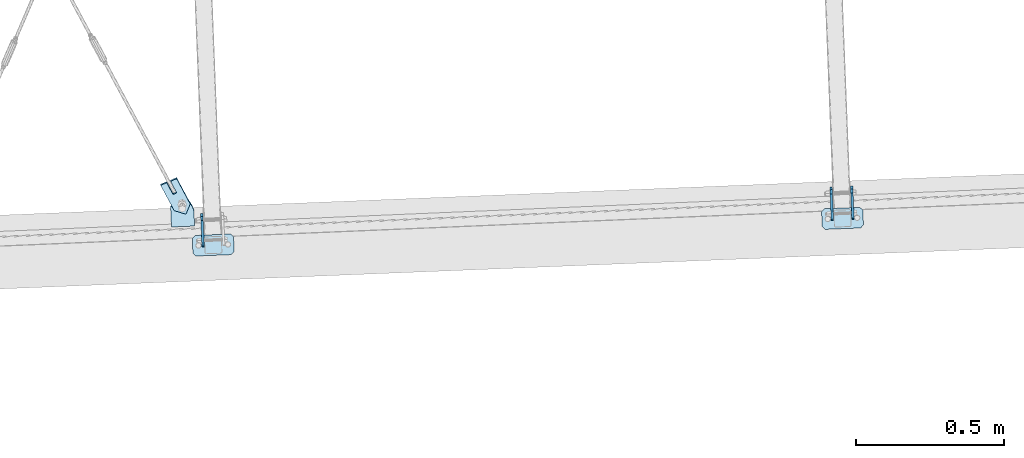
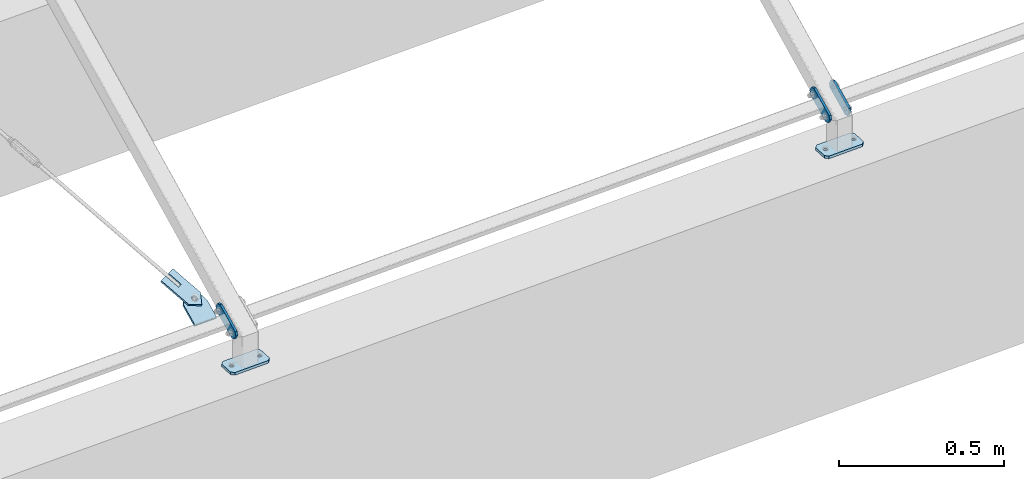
# One storey, part 61 of 288: 7 plates, 42 openings.
"""IFC2X3 building model written with IfcOpenShell, lengths in millimetres."""

from ifc_helpers import new_model, entity, si_unit, converted_unit, point, frame, frame_2d, origin, origin_with_axes, origin_2d_with_axis, place, context, project, spatial, polyline, circle_curve, line_curve, trimmed, segment, composite_curve, circle, outline, extrude, material, layer, layer_set, element, save


model = new_model("IFC2X3")

# Units and contexts
model_context = context("Model", 3, precision=1e-09, world=origin_with_axes())
ifc_project = project(units=[si_unit("LENGTHUNIT", "METRE", prefix="MILLI"), si_unit("AREAUNIT", "SQUARE_METRE"), si_unit("VOLUMEUNIT", "CUBIC_METRE"), converted_unit("PLANEANGLEUNIT", "DEGREE", entity("IfcPlaneAngleMeasure", 0.01745329), si_unit("PLANEANGLEUNIT", "RADIAN"), dimensions=[0, 0, 0, 0, 0, 0, 0])], contexts=[model_context])

# Site, building, storey
site_placement = place(None, origin_with_axes())
site = spatial("IfcSite", under=ifc_project, at=site_placement, Name="Remont ?wietlik?w nad MC w NCPP w Opolu", CompositionType="ELEMENT")
building_placement = place(site_placement, origin_with_axes())
building = spatial("IfcBuilding", under=site, at=building_placement, Name="Konstrukcja 1", CompositionType="ELEMENT")
storey_placement = place(building_placement, origin_with_axes())
storey = spatial("IfcBuildingStorey", under=building, at=storey_placement, Name="Default Storey", CompositionType="ELEMENT", Elevation=0.0)

# Plate, openings
ifc_material = material(Name="S235")
ifc_layer_1 = layer(ifc_material, 8.0)
ifc_layer_set_1 = layer_set([ifc_layer_1], Name="S235")
plate_1_placement = place(None, frame((5642.955273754, 13767.245225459, 92.398496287), z_axis=(-0.999102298, -0.042361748, 0.000284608), x_axis=(0.021561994, -0.502733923, 0.864172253)))
plate_1 = element("IfcPlate", 1, at=plate_1_placement, inside=storey, material=ifc_layer_set_1, Name="-", ObjectType="-", context=model_context, shape_type="SweptSolid", body=[
    extrude(outline(polyline([(0.0, 0.0), (40.0, 0.0), (40.0, 120.0), (0.0, 120.0), (0.0, 0.0)])), origin_with_axes(), (0.0, 0.0, 1.0), 8.0),
])
opening_1_placement = place(plate_1_placement, frame((0.0, 0.0, -0.01), z_axis=(0.0, 0.0, 1.0), x_axis=(1.0, 0.0, 0.0)))
element("IfcOpeningElement", 2, at=opening_1_placement, cuts=plate_1, ObjectType="Opening", context=model_context, shape_type="SweptSolid", body=[
    extrude(outline(composite_curve([segment(trimmed(line_curve((0.0, 0.0), (1.0, 0.0), 10.0), [point((0.0, 0.0))], [point((10.0, 0.0))], True, "CARTESIAN"), True, "CONTINUOUS"), segment(trimmed(circle_curve(frame_2d((10.0, 10.0), x_axis=(-1.0, 0.0)), 10.0), [point((10.0, 0.0))], [point((0.0, 10.0))], False, "CARTESIAN"), True, "CONTINUOUS"), segment(trimmed(line_curve((0.0, 10.0), (0.0, -1.0), 10.0), [point((0.0, 10.0))], [point((0.0, 0.0))], True, "CARTESIAN"), True, "CONTINUOUS")], self_intersect=False)), origin(), (0.0, 0.0, 1.0), 8.02),
])
opening_2_placement = place(plate_1_placement, frame((0.0, 0.0, -0.01), z_axis=(0.0, 0.0, 1.0), x_axis=(1.0, 0.0, 0.0)))
element("IfcOpeningElement", 3, at=opening_2_placement, cuts=plate_1, ObjectType="Opening", context=model_context, shape_type="SweptSolid", body=[
    extrude(outline(composite_curve([segment(trimmed(line_curve((40.0, 0.0), (0.0, 1.0), 10.0), [point((40.0, 0.0))], [point((40.0, 10.0))], True, "CARTESIAN"), True, "CONTINUOUS"), segment(trimmed(circle_curve(frame_2d((30.0, 10.0), x_axis=(-1.0, 0.0)), 10.0), [point((40.0, 10.0))], [point((30.0, 0.0))], False, "CARTESIAN"), True, "CONTINUOUS"), segment(trimmed(line_curve((30.0, 0.0), (1.0, 0.0), 10.0), [point((30.0, 0.0))], [point((40.0, 0.0))], True, "CARTESIAN"), True, "CONTINUOUS")], self_intersect=False)), origin(), (0.0, 0.0, 1.0), 8.02),
])
opening_3_placement = place(plate_1_placement, frame((0.0, 0.0, -0.01), z_axis=(0.0, 0.0, 1.0), x_axis=(1.0, 0.0, 0.0)))
element("IfcOpeningElement", 4, at=opening_3_placement, cuts=plate_1, ObjectType="Opening", context=model_context, shape_type="SweptSolid", body=[
    extrude(outline(composite_curve([segment(trimmed(line_curve((40.0, 120.0), (-1.0, 0.0), 10.0), [point((40.0, 120.0))], [point((30.0, 120.0))], True, "CARTESIAN"), True, "CONTINUOUS"), segment(trimmed(circle_curve(frame_2d((30.0, 110.0), x_axis=(-1.0, 0.0)), 10.0), [point((30.0, 120.0))], [point((40.0, 110.0))], False, "CARTESIAN"), True, "CONTINUOUS"), segment(trimmed(line_curve((40.0, 110.0), (0.0, 1.0), 10.0), [point((40.0, 110.0))], [point((40.0, 120.0))], True, "CARTESIAN"), True, "CONTINUOUS")], self_intersect=False)), origin(), (0.0, 0.0, 1.0), 8.02),
])
opening_4_placement = place(plate_1_placement, frame((0.0, 0.0, -0.01), z_axis=(0.0, 0.0, 1.0), x_axis=(1.0, 0.0, 0.0)))
element("IfcOpeningElement", 5, at=opening_4_placement, cuts=plate_1, ObjectType="Opening", context=model_context, shape_type="SweptSolid", body=[
    extrude(outline(composite_curve([segment(trimmed(line_curve((0.0, 120.0), (0.0, -1.0), 10.0), [point((0.0, 120.0))], [point((0.0, 110.0))], True, "CARTESIAN"), True, "CONTINUOUS"), segment(trimmed(circle_curve(frame_2d((10.0, 110.0), x_axis=(-1.0, 0.0)), 10.0), [point((0.0, 110.0))], [point((10.0, 120.0))], False, "CARTESIAN"), True, "CONTINUOUS"), segment(trimmed(line_curve((10.0, 120.0), (-1.0, 0.0), 10.0), [point((10.0, 120.0))], [point((0.0, 120.0))], True, "CARTESIAN"), True, "CONTINUOUS")], self_intersect=False)), origin(), (0.0, 0.0, 1.0), 8.02),
])
opening_5_placement = place(plate_1_placement, frame((12.999, 100.0, 8.5), z_axis=(0.0, 0.0, 1.0), x_axis=(1.0, 0.0, 0.0)))
element("IfcOpeningElement", 6, at=opening_5_placement, cuts=plate_1, ObjectType="Opening", context=model_context, shape_type="SweptSolid", body=[
    extrude(circle(Radius=7.001, at=frame_2d((7.001, 0.0), x_axis=(1.0, 0.0))), origin(), (0.0, 0.0, -1.0), 9.0),
])
opening_6_placement = place(plate_1_placement, frame((12.999, 20.0, 8.5), z_axis=(0.0, 0.0, 1.0), x_axis=(1.0, 0.0, 0.0)))
element("IfcOpeningElement", 7, at=opening_6_placement, cuts=plate_1, ObjectType="Opening", context=model_context, shape_type="SweptSolid", body=[
    extrude(circle(Radius=7.001, at=frame_2d((7.001, 0.0), x_axis=(1.0, 0.0))), origin(), (0.0, 0.0, -1.0), 9.0),
])

plate_2_placement = place(None, frame((5573.018112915, 13764.279903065, 92.418418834), z_axis=(-0.999102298, -0.042361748, 0.000284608), x_axis=(0.021561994, -0.502733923, 0.864172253)))
plate_2 = element("IfcPlate", 8, at=plate_2_placement, inside=storey, material=ifc_layer_set_1, Name="-", ObjectType="-", context=model_context, shape_type="SweptSolid", body=[
    extrude(outline(polyline([(0.0, 0.0), (40.0, 0.0), (40.0, 120.0), (0.0, 120.0), (0.0, 0.0)])), origin_with_axes(), (0.0, 0.0, 1.0), 8.0),
])
opening_7_placement = place(plate_2_placement, frame((12.999, 100.0, 8.5), z_axis=(0.0, 0.0, 1.0), x_axis=(1.0, 0.0, 0.0)))
element("IfcOpeningElement", 9, at=opening_7_placement, cuts=plate_2, ObjectType="Opening", context=model_context, shape_type="SweptSolid", body=[
    extrude(circle(Radius=7.001, at=frame_2d((7.001, 0.0), x_axis=(1.0, 0.0))), origin(), (0.0, 0.0, -1.0), 9.0),
])
opening_8_placement = place(plate_2_placement, frame((12.999, 20.0, 8.5), z_axis=(0.0, 0.0, 1.0), x_axis=(1.0, 0.0, 0.0)))
element("IfcOpeningElement", 10, at=opening_8_placement, cuts=plate_2, ObjectType="Opening", context=model_context, shape_type="SweptSolid", body=[
    extrude(circle(Radius=7.001, at=frame_2d((7.001, 0.0), x_axis=(1.0, 0.0))), origin(), (0.0, 0.0, -1.0), 9.0),
])
opening_9_placement = place(plate_2_placement, frame((0.0, 0.0, -0.01), z_axis=(0.0, 0.0, 1.0), x_axis=(1.0, 0.0, 0.0)))
element("IfcOpeningElement", 11, at=opening_9_placement, cuts=plate_2, ObjectType="Opening", context=model_context, shape_type="SweptSolid", body=[
    extrude(outline(composite_curve([segment(trimmed(line_curve((40.0, 0.0), (0.0, 1.0), 10.0), [point((40.0, 0.0))], [point((40.0, 10.0))], True, "CARTESIAN"), True, "CONTINUOUS"), segment(trimmed(circle_curve(frame_2d((30.0, 10.0), x_axis=(-1.0, 0.0)), 10.0), [point((40.0, 10.0))], [point((30.0, 0.0))], False, "CARTESIAN"), True, "CONTINUOUS"), segment(trimmed(line_curve((30.0, 0.0), (1.0, 0.0), 10.0), [point((30.0, 0.0))], [point((40.0, 0.0))], True, "CARTESIAN"), True, "CONTINUOUS")], self_intersect=False)), origin(), (0.0, 0.0, 1.0), 8.02),
])
opening_10_placement = place(plate_2_placement, frame((0.0, 0.0, -0.01), z_axis=(0.0, 0.0, 1.0), x_axis=(1.0, 0.0, 0.0)))
element("IfcOpeningElement", 12, at=opening_10_placement, cuts=plate_2, ObjectType="Opening", context=model_context, shape_type="SweptSolid", body=[
    extrude(outline(composite_curve([segment(trimmed(line_curve((0.0, 0.0), (1.0, 0.0), 10.0), [point((0.0, 0.0))], [point((10.0, 0.0))], True, "CARTESIAN"), True, "CONTINUOUS"), segment(trimmed(circle_curve(frame_2d((10.0, 10.0), x_axis=(-1.0, 0.0)), 10.0), [point((10.0, 0.0))], [point((0.0, 10.0))], False, "CARTESIAN"), True, "CONTINUOUS"), segment(trimmed(line_curve((0.0, 10.0), (0.0, -1.0), 10.0), [point((0.0, 10.0))], [point((0.0, 0.0))], True, "CARTESIAN"), True, "CONTINUOUS")], self_intersect=False)), origin(), (0.0, 0.0, 1.0), 8.02),
])
opening_11_placement = place(plate_2_placement, frame((0.0, 0.0, -0.01), z_axis=(0.0, 0.0, 1.0), x_axis=(1.0, 0.0, 0.0)))
element("IfcOpeningElement", 13, at=opening_11_placement, cuts=plate_2, ObjectType="Opening", context=model_context, shape_type="SweptSolid", body=[
    extrude(outline(composite_curve([segment(trimmed(line_curve((40.0, 120.0), (-1.0, 0.0), 10.0), [point((40.0, 120.0))], [point((30.0, 120.0))], True, "CARTESIAN"), True, "CONTINUOUS"), segment(trimmed(circle_curve(frame_2d((30.0, 110.0), x_axis=(-1.0, 0.0)), 10.0), [point((30.0, 120.0))], [point((40.0, 110.0))], False, "CARTESIAN"), True, "CONTINUOUS"), segment(trimmed(line_curve((40.0, 110.0), (0.0, 1.0), 10.0), [point((40.0, 110.0))], [point((40.0, 120.0))], True, "CARTESIAN"), True, "CONTINUOUS")], self_intersect=False)), origin(), (0.0, 0.0, 1.0), 8.02),
])
opening_12_placement = place(plate_2_placement, frame((0.0, 0.0, -0.01), z_axis=(0.0, 0.0, 1.0), x_axis=(1.0, 0.0, 0.0)))
element("IfcOpeningElement", 14, at=opening_12_placement, cuts=plate_2, ObjectType="Opening", context=model_context, shape_type="SweptSolid", body=[
    extrude(outline(composite_curve([segment(trimmed(line_curve((0.0, 120.0), (0.0, -1.0), 10.0), [point((0.0, 120.0))], [point((0.0, 110.0))], True, "CARTESIAN"), True, "CONTINUOUS"), segment(trimmed(circle_curve(frame_2d((10.0, 110.0), x_axis=(-1.0, 0.0)), 10.0), [point((0.0, 110.0))], [point((10.0, 120.0))], False, "CARTESIAN"), True, "CONTINUOUS"), segment(trimmed(line_curve((10.0, 120.0), (-1.0, 0.0), 10.0), [point((10.0, 120.0))], [point((0.0, 120.0))], True, "CARTESIAN"), True, "CONTINUOUS")], self_intersect=False)), origin(), (0.0, 0.0, 1.0), 8.02),
])
opening_13_placement = place(plate_2_placement, frame((12.999, 100.0, 8.5), z_axis=(0.0, 0.0, 1.0), x_axis=(1.0, 0.0, 0.0)))
element("IfcOpeningElement", 15, at=opening_13_placement, cuts=plate_2, ObjectType="Opening", context=model_context, shape_type="SweptSolid", body=[
    extrude(circle(Radius=7.001, at=frame_2d((7.001, 0.0), x_axis=(1.0, 0.0))), origin(), (0.0, 0.0, -1.0), 9.0),
])
opening_14_placement = place(plate_2_placement, frame((12.999, 20.0, 8.5), z_axis=(0.0, 0.0, 1.0), x_axis=(1.0, 0.0, 0.0)))
element("IfcOpeningElement", 16, at=opening_14_placement, cuts=plate_2, ObjectType="Opening", context=model_context, shape_type="SweptSolid", body=[
    extrude(circle(Radius=7.001, at=frame_2d((7.001, 0.0), x_axis=(1.0, 0.0))), origin(), (0.0, 0.0, -1.0), 9.0),
])

plate_3_placement = place(None, frame((3439.985630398, 13673.839729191, 93.026041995), z_axis=(-0.999102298, -0.042361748, 0.000284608), x_axis=(0.021561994, -0.502733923, 0.864172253)))
plate_3 = element("IfcPlate", 17, at=plate_3_placement, inside=storey, material=ifc_layer_set_1, Name="-", ObjectType="-", context=model_context, shape_type="SweptSolid", body=[
    extrude(outline(polyline([(0.0, 0.0), (40.0, 0.0), (40.0, 120.0), (0.0, 120.0), (0.0, 0.0)])), origin_with_axes(), (0.0, 0.0, 1.0), 8.0),
])
opening_15_placement = place(plate_3_placement, frame((12.999, 100.0, 8.5), z_axis=(0.0, 0.0, 1.0), x_axis=(1.0, 0.0, 0.0)))
element("IfcOpeningElement", 18, at=opening_15_placement, cuts=plate_3, ObjectType="Opening", context=model_context, shape_type="SweptSolid", body=[
    extrude(circle(Radius=7.001, at=frame_2d((7.001, 0.0), x_axis=(1.0, 0.0))), origin(), (0.0, 0.0, -1.0), 9.0),
])
opening_16_placement = place(plate_3_placement, frame((12.999, 20.0, 8.5), z_axis=(0.0, 0.0, 1.0), x_axis=(1.0, 0.0, 0.0)))
element("IfcOpeningElement", 19, at=opening_16_placement, cuts=plate_3, ObjectType="Opening", context=model_context, shape_type="SweptSolid", body=[
    extrude(circle(Radius=7.001, at=frame_2d((7.001, 0.0), x_axis=(1.0, 0.0))), origin(), (0.0, 0.0, -1.0), 9.0),
])
opening_17_placement = place(plate_3_placement, frame((0.0, 0.0, -0.01), z_axis=(0.0, 0.0, 1.0), x_axis=(1.0, 0.0, 0.0)))
element("IfcOpeningElement", 20, at=opening_17_placement, cuts=plate_3, ObjectType="Opening", context=model_context, shape_type="SweptSolid", body=[
    extrude(outline(composite_curve([segment(trimmed(line_curve((40.0, 0.0), (0.0, 1.0), 10.0), [point((40.0, 0.0))], [point((40.0, 10.0))], True, "CARTESIAN"), True, "CONTINUOUS"), segment(trimmed(circle_curve(frame_2d((30.0, 10.0), x_axis=(-1.0, 0.0)), 10.0), [point((40.0, 10.0))], [point((30.0, 0.0))], False, "CARTESIAN"), True, "CONTINUOUS"), segment(trimmed(line_curve((30.0, 0.0), (1.0, 0.0), 10.0), [point((30.0, 0.0))], [point((40.0, 0.0))], True, "CARTESIAN"), True, "CONTINUOUS")], self_intersect=False)), origin(), (0.0, 0.0, 1.0), 8.02),
])
opening_18_placement = place(plate_3_placement, frame((0.0, 0.0, -0.01), z_axis=(0.0, 0.0, 1.0), x_axis=(1.0, 0.0, 0.0)))
element("IfcOpeningElement", 21, at=opening_18_placement, cuts=plate_3, ObjectType="Opening", context=model_context, shape_type="SweptSolid", body=[
    extrude(outline(composite_curve([segment(trimmed(line_curve((0.0, 0.0), (1.0, 0.0), 10.0), [point((0.0, 0.0))], [point((10.0, 0.0))], True, "CARTESIAN"), True, "CONTINUOUS"), segment(trimmed(circle_curve(frame_2d((10.0, 10.0), x_axis=(-1.0, 0.0)), 10.0), [point((10.0, 0.0))], [point((0.0, 10.0))], False, "CARTESIAN"), True, "CONTINUOUS"), segment(trimmed(line_curve((0.0, 10.0), (0.0, -1.0), 10.0), [point((0.0, 10.0))], [point((0.0, 0.0))], True, "CARTESIAN"), True, "CONTINUOUS")], self_intersect=False)), origin(), (0.0, 0.0, 1.0), 8.02),
])
opening_19_placement = place(plate_3_placement, frame((0.0, 0.0, -0.01), z_axis=(0.0, 0.0, 1.0), x_axis=(1.0, 0.0, 0.0)))
element("IfcOpeningElement", 22, at=opening_19_placement, cuts=plate_3, ObjectType="Opening", context=model_context, shape_type="SweptSolid", body=[
    extrude(outline(composite_curve([segment(trimmed(line_curve((40.0, 120.0), (-1.0, 0.0), 10.0), [point((40.0, 120.0))], [point((30.0, 120.0))], True, "CARTESIAN"), True, "CONTINUOUS"), segment(trimmed(circle_curve(frame_2d((30.0, 110.0), x_axis=(-1.0, 0.0)), 10.0), [point((30.0, 120.0))], [point((40.0, 110.0))], False, "CARTESIAN"), True, "CONTINUOUS"), segment(trimmed(line_curve((40.0, 110.0), (0.0, 1.0), 10.0), [point((40.0, 110.0))], [point((40.0, 120.0))], True, "CARTESIAN"), True, "CONTINUOUS")], self_intersect=False)), origin(), (0.0, 0.0, 1.0), 8.02),
])
opening_20_placement = place(plate_3_placement, frame((0.0, 0.0, -0.01), z_axis=(0.0, 0.0, 1.0), x_axis=(1.0, 0.0, 0.0)))
element("IfcOpeningElement", 23, at=opening_20_placement, cuts=plate_3, ObjectType="Opening", context=model_context, shape_type="SweptSolid", body=[
    extrude(outline(composite_curve([segment(trimmed(line_curve((0.0, 120.0), (0.0, -1.0), 10.0), [point((0.0, 120.0))], [point((0.0, 110.0))], True, "CARTESIAN"), True, "CONTINUOUS"), segment(trimmed(circle_curve(frame_2d((10.0, 110.0), x_axis=(-1.0, 0.0)), 10.0), [point((0.0, 110.0))], [point((10.0, 120.0))], False, "CARTESIAN"), True, "CONTINUOUS"), segment(trimmed(line_curve((10.0, 120.0), (-1.0, 0.0), 10.0), [point((10.0, 120.0))], [point((0.0, 120.0))], True, "CARTESIAN"), True, "CONTINUOUS")], self_intersect=False)), origin(), (0.0, 0.0, 1.0), 8.02),
])
opening_21_placement = place(plate_3_placement, frame((12.999, 100.0, 8.5), z_axis=(0.0, 0.0, 1.0), x_axis=(1.0, 0.0, 0.0)))
element("IfcOpeningElement", 24, at=opening_21_placement, cuts=plate_3, ObjectType="Opening", context=model_context, shape_type="SweptSolid", body=[
    extrude(circle(Radius=7.001, at=frame_2d((7.001, 0.0), x_axis=(1.0, 0.0))), origin(), (0.0, 0.0, -1.0), 9.0),
])
opening_22_placement = place(plate_3_placement, frame((12.999, 20.0, 8.5), z_axis=(0.0, 0.0, 1.0), x_axis=(1.0, 0.0, 0.0)))
element("IfcOpeningElement", 25, at=opening_22_placement, cuts=plate_3, ObjectType="Opening", context=model_context, shape_type="SweptSolid", body=[
    extrude(circle(Radius=7.001, at=frame_2d((7.001, 0.0), x_axis=(1.0, 0.0))), origin(), (0.0, 0.0, -1.0), 9.0),
])

ifc_layer_2 = layer(ifc_material, 10.0)
ifc_layer_set_2 = layer_set([ifc_layer_2], Name="S235")
plate_4_placement = place(None, frame((3539.450567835, 13702.954333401, 10.000000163), z_axis=(0.0, 0.0, -1.0), x_axis=(0.039392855, -0.9992238, 0.0)))
plate_4 = element("IfcPlate", 26, at=plate_4_placement, inside=storey, material=ifc_layer_set_2, Name="Baseplate", ObjectType="Baseplate", context=model_context, shape_type="SweptSolid", body=[
    extrude(outline(polyline([(0.0, 0.0), (70.0, 0.0), (70.0, 140.0), (0.0, 140.0), (0.0, 0.0)])), origin_with_axes(), (0.0, 0.0, 1.0), 10.0),
])
opening_23_placement = place(plate_4_placement, frame((0.0, 0.0, -0.01), z_axis=(0.0, 0.0, 1.0), x_axis=(1.0, 0.0, 0.0)))
element("IfcOpeningElement", 27, at=opening_23_placement, cuts=plate_4, ObjectType="Opening", context=model_context, shape_type="SweptSolid", body=[
    extrude(outline(composite_curve([segment(trimmed(line_curve((0.0, 140.0), (0.0, -1.0), 10.0), [point((0.0, 140.0))], [point((0.0, 130.0))], True, "CARTESIAN"), True, "CONTINUOUS"), segment(trimmed(circle_curve(frame_2d((10.0, 130.0), x_axis=(-1.0, 0.0)), 10.0), [point((0.0, 130.0))], [point((10.0, 140.0))], False, "CARTESIAN"), True, "CONTINUOUS"), segment(trimmed(line_curve((10.0, 140.0), (-1.0, 0.0), 10.0), [point((10.0, 140.0))], [point((0.0, 140.0))], True, "CARTESIAN"), True, "CONTINUOUS")], self_intersect=False)), origin(), (0.0, 0.0, 1.0), 10.02),
])
opening_24_placement = place(plate_4_placement, frame((0.0, 0.0, -0.01), z_axis=(0.0, 0.0, 1.0), x_axis=(1.0, 0.0, 0.0)))
element("IfcOpeningElement", 28, at=opening_24_placement, cuts=plate_4, ObjectType="Opening", context=model_context, shape_type="SweptSolid", body=[
    extrude(outline(composite_curve([segment(trimmed(line_curve((70.0, 140.0), (-1.0, 0.0), 10.0), [point((70.0, 140.0))], [point((60.0, 140.0))], True, "CARTESIAN"), True, "CONTINUOUS"), segment(trimmed(circle_curve(frame_2d((60.0, 130.0), x_axis=(-1.0, 0.0)), 10.0), [point((60.0, 140.0))], [point((70.0, 130.0))], False, "CARTESIAN"), True, "CONTINUOUS"), segment(trimmed(line_curve((70.0, 130.0), (0.0, 1.0), 10.0), [point((70.0, 130.0))], [point((70.0, 140.0))], True, "CARTESIAN"), True, "CONTINUOUS")], self_intersect=False)), origin(), (0.0, 0.0, 1.0), 10.02),
])
opening_25_placement = place(plate_4_placement, frame((0.0, 0.0, -0.01), z_axis=(0.0, 0.0, 1.0), x_axis=(1.0, 0.0, 0.0)))
element("IfcOpeningElement", 29, at=opening_25_placement, cuts=plate_4, ObjectType="Opening", context=model_context, shape_type="SweptSolid", body=[
    extrude(outline(composite_curve([segment(trimmed(line_curve((0.0, 0.0), (1.0, 0.0), 10.0), [point((0.0, 0.0))], [point((10.0, 0.0))], True, "CARTESIAN"), True, "CONTINUOUS"), segment(trimmed(circle_curve(frame_2d((10.0, 10.0), x_axis=(-1.0, 0.0)), 10.0), [point((10.0, 0.0))], [point((0.0, 10.0))], False, "CARTESIAN"), True, "CONTINUOUS"), segment(trimmed(line_curve((0.0, 10.0), (0.0, -1.0), 10.0), [point((0.0, 10.0))], [point((0.0, 0.0))], True, "CARTESIAN"), True, "CONTINUOUS")], self_intersect=False)), origin(), (0.0, 0.0, 1.0), 10.02),
])
opening_26_placement = place(plate_4_placement, frame((0.0, 0.0, -0.01), z_axis=(0.0, 0.0, 1.0), x_axis=(1.0, 0.0, 0.0)))
element("IfcOpeningElement", 30, at=opening_26_placement, cuts=plate_4, ObjectType="Opening", context=model_context, shape_type="SweptSolid", body=[
    extrude(outline(composite_curve([segment(trimmed(line_curve((70.0, 0.0), (0.0, 1.0), 10.0), [point((70.0, 0.0))], [point((70.0, 10.0))], True, "CARTESIAN"), True, "CONTINUOUS"), segment(trimmed(circle_curve(frame_2d((60.0, 10.0), x_axis=(-1.0, 0.0)), 10.0), [point((70.0, 10.0))], [point((60.0, 0.0))], False, "CARTESIAN"), True, "CONTINUOUS"), segment(trimmed(line_curve((60.0, 0.0), (1.0, 0.0), 10.0), [point((60.0, 0.0))], [point((70.0, 0.0))], True, "CARTESIAN"), True, "CONTINUOUS")], self_intersect=False)), origin(), (0.0, 0.0, 1.0), 10.02),
])
opening_27_placement = place(plate_4_placement, frame((35.0, 120.0, 10.5), z_axis=(0.0, 0.0, -1.0), x_axis=(1.0, 0.0, 0.0)))
element("IfcOpeningElement", 31, at=opening_27_placement, cuts=plate_4, ObjectType="Opening", context=model_context, shape_type="SweptSolid", body=[
    extrude(circle(Radius=6.001, at=origin_2d_with_axis()), origin(), (0.0, 0.0, 1.0), 11.0),
])
opening_28_placement = place(plate_4_placement, frame((35.0, 20.0, 10.5), z_axis=(0.0, 0.0, -1.0), x_axis=(1.0, 0.0, 0.0)))
element("IfcOpeningElement", 32, at=opening_28_placement, cuts=plate_4, ObjectType="Opening", context=model_context, shape_type="SweptSolid", body=[
    extrude(circle(Radius=6.001, at=origin_2d_with_axis()), origin(), (0.0, 0.0, 1.0), 11.0),
])

plate_5_placement = place(None, frame((5672.482947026, 13793.394502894, 10.000000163), z_axis=(0.0, 0.0, -1.0), x_axis=(0.039392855, -0.9992238, 0.0)))
plate_5 = element("IfcPlate", 33, at=plate_5_placement, inside=storey, material=ifc_layer_set_2, Name="Baseplate", ObjectType="Baseplate", context=model_context, shape_type="SweptSolid", body=[
    extrude(outline(polyline([(0.0, 0.0), (70.0, 0.0), (70.0, 140.0), (0.0, 140.0), (0.0, 0.0)])), origin_with_axes(), (0.0, 0.0, 1.0), 10.0),
])
opening_29_placement = place(plate_5_placement, frame((0.0, 0.0, -0.01), z_axis=(0.0, 0.0, 1.0), x_axis=(1.0, 0.0, 0.0)))
element("IfcOpeningElement", 34, at=opening_29_placement, cuts=plate_5, ObjectType="Opening", context=model_context, shape_type="SweptSolid", body=[
    extrude(outline(composite_curve([segment(trimmed(line_curve((0.0, 140.0), (0.0, -1.0), 10.0), [point((0.0, 140.0))], [point((0.0, 130.0))], True, "CARTESIAN"), True, "CONTINUOUS"), segment(trimmed(circle_curve(frame_2d((10.0, 130.0), x_axis=(-1.0, 0.0)), 10.0), [point((0.0, 130.0))], [point((10.0, 140.0))], False, "CARTESIAN"), True, "CONTINUOUS"), segment(trimmed(line_curve((10.0, 140.0), (-1.0, 0.0), 10.0), [point((10.0, 140.0))], [point((0.0, 140.0))], True, "CARTESIAN"), True, "CONTINUOUS")], self_intersect=False)), origin(), (0.0, 0.0, 1.0), 10.02),
])
opening_30_placement = place(plate_5_placement, frame((0.0, 0.0, -0.01), z_axis=(0.0, 0.0, 1.0), x_axis=(1.0, 0.0, 0.0)))
element("IfcOpeningElement", 35, at=opening_30_placement, cuts=plate_5, ObjectType="Opening", context=model_context, shape_type="SweptSolid", body=[
    extrude(outline(composite_curve([segment(trimmed(line_curve((70.0, 140.0), (-1.0, 0.0), 10.0), [point((70.0, 140.0))], [point((60.0, 140.0))], True, "CARTESIAN"), True, "CONTINUOUS"), segment(trimmed(circle_curve(frame_2d((60.0, 130.0), x_axis=(-1.0, 0.0)), 10.0), [point((60.0, 140.0))], [point((70.0, 130.0))], False, "CARTESIAN"), True, "CONTINUOUS"), segment(trimmed(line_curve((70.0, 130.0), (0.0, 1.0), 10.0), [point((70.0, 130.0))], [point((70.0, 140.0))], True, "CARTESIAN"), True, "CONTINUOUS")], self_intersect=False)), origin(), (0.0, 0.0, 1.0), 10.02),
])
opening_31_placement = place(plate_5_placement, frame((0.0, 0.0, -0.01), z_axis=(0.0, 0.0, 1.0), x_axis=(1.0, 0.0, 0.0)))
element("IfcOpeningElement", 36, at=opening_31_placement, cuts=plate_5, ObjectType="Opening", context=model_context, shape_type="SweptSolid", body=[
    extrude(outline(composite_curve([segment(trimmed(line_curve((0.0, 0.0), (1.0, 0.0), 10.0), [point((0.0, 0.0))], [point((10.0, 0.0))], True, "CARTESIAN"), True, "CONTINUOUS"), segment(trimmed(circle_curve(frame_2d((10.0, 10.0), x_axis=(-1.0, 0.0)), 10.0), [point((10.0, 0.0))], [point((0.0, 10.0))], False, "CARTESIAN"), True, "CONTINUOUS"), segment(trimmed(line_curve((0.0, 10.0), (0.0, -1.0), 10.0), [point((0.0, 10.0))], [point((0.0, 0.0))], True, "CARTESIAN"), True, "CONTINUOUS")], self_intersect=False)), origin(), (0.0, 0.0, 1.0), 10.02),
])
opening_32_placement = place(plate_5_placement, frame((0.0, 0.0, -0.01), z_axis=(0.0, 0.0, 1.0), x_axis=(1.0, 0.0, 0.0)))
element("IfcOpeningElement", 37, at=opening_32_placement, cuts=plate_5, ObjectType="Opening", context=model_context, shape_type="SweptSolid", body=[
    extrude(outline(composite_curve([segment(trimmed(line_curve((70.0, 0.0), (0.0, 1.0), 10.0), [point((70.0, 0.0))], [point((70.0, 10.0))], True, "CARTESIAN"), True, "CONTINUOUS"), segment(trimmed(circle_curve(frame_2d((60.0, 10.0), x_axis=(-1.0, 0.0)), 10.0), [point((70.0, 10.0))], [point((60.0, 0.0))], False, "CARTESIAN"), True, "CONTINUOUS"), segment(trimmed(line_curve((60.0, 0.0), (1.0, 0.0), 10.0), [point((60.0, 0.0))], [point((70.0, 0.0))], True, "CARTESIAN"), True, "CONTINUOUS")], self_intersect=False)), origin(), (0.0, 0.0, 1.0), 10.02),
])
opening_33_placement = place(plate_5_placement, frame((35.0, 120.0, 10.5), z_axis=(0.0, 0.0, -1.0), x_axis=(1.0, 0.0, 0.0)))
element("IfcOpeningElement", 38, at=opening_33_placement, cuts=plate_5, ObjectType="Opening", context=model_context, shape_type="SweptSolid", body=[
    extrude(circle(Radius=6.001, at=origin_2d_with_axis()), origin(), (0.0, 0.0, 1.0), 11.0),
])
opening_34_placement = place(plate_5_placement, frame((35.0, 20.0, 10.5), z_axis=(0.0, 0.0, -1.0), x_axis=(1.0, 0.0, 0.0)))
element("IfcOpeningElement", 39, at=opening_34_placement, cuts=plate_5, ObjectType="Opening", context=model_context, shape_type="SweptSolid", body=[
    extrude(circle(Radius=6.001, at=origin_2d_with_axis()), origin(), (0.0, 0.0, 1.0), 11.0),
])

plate_6_placement = place(None, frame((3346.866238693, 13893.999173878, 251.422759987), z_axis=(0.021594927, -0.503513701, 0.863717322), x_axis=(-0.908477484, -0.370545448, -0.193299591)))
plate_6 = element("IfcPlate", 40, at=plate_6_placement, inside=storey, material=ifc_layer_set_1, Name="Tab_Plate#1", ObjectType="Tab_Plate#1", context=model_context, shape_type="SweptSolid", body=[
    extrude(outline(polyline([(0.0, 0.0), (60.0, 0.0), (60.0, 140.0), (0.0, 140.0), (0.0, 0.0)])), origin_with_axes(), (0.0, 0.0, 1.0), 8.0),
])
opening_35_placement = place(plate_6_placement, frame((0.0, 0.0, -0.01), z_axis=(0.0, 0.0, 1.0), x_axis=(1.0, 0.0, 0.0)))
element("IfcOpeningElement", 41, at=opening_35_placement, cuts=plate_6, ObjectType="Opening", context=model_context, shape_type="SweptSolid", body=[
    extrude(outline(composite_curve([segment(trimmed(line_curve((60.0, 140.0), (-1.0, 0.0), 30.0), [point((60.0, 140.0))], [point((30.0, 140.0))], True, "CARTESIAN"), True, "CONTINUOUS"), segment(trimmed(circle_curve(frame_2d((30.0, 110.0), x_axis=(-1.0, 0.0)), 30.0), [point((30.0, 140.0))], [point((60.0, 110.0))], False, "CARTESIAN"), True, "CONTINUOUS"), segment(trimmed(line_curve((60.0, 110.0), (0.0, 1.0), 30.0), [point((60.0, 110.0))], [point((60.0, 140.0))], True, "CARTESIAN"), True, "CONTINUOUS")], self_intersect=False)), origin(), (0.0, 0.0, 1.0), 8.02),
])
opening_36_placement = place(plate_6_placement, frame((0.0, 0.0, -0.01), z_axis=(0.0, 0.0, 1.0), x_axis=(1.0, 0.0, 0.0)))
element("IfcOpeningElement", 42, at=opening_36_placement, cuts=plate_6, ObjectType="Opening", context=model_context, shape_type="SweptSolid", body=[
    extrude(outline(composite_curve([segment(trimmed(line_curve((0.0, 140.0), (0.0, -1.0), 30.0), [point((0.0, 140.0))], [point((0.0, 110.0))], True, "CARTESIAN"), True, "CONTINUOUS"), segment(trimmed(circle_curve(frame_2d((30.0, 110.0), x_axis=(-1.0, 0.0)), 30.0), [point((0.0, 110.0))], [point((30.0, 140.0))], False, "CARTESIAN"), True, "CONTINUOUS"), segment(trimmed(line_curve((30.0, 140.0), (-1.0, 0.0), 30.0), [point((30.0, 140.0))], [point((0.0, 140.0))], True, "CARTESIAN"), True, "CONTINUOUS")], self_intersect=False)), origin(), (0.0, 0.0, 1.0), 8.02),
])
opening_37_placement = place(plate_6_placement, frame((0.0, 0.0, 8.1), z_axis=(0.0, 0.0, -1.0), x_axis=(0.923520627, -0.383548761, 0.0)))
element("IfcOpeningElement", 43, at=opening_37_placement, cuts=plate_6, ObjectType="Opening", context=model_context, shape_type="SweptSolid", body=[
    extrude(outline(polyline([(1.678680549, -55.921713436), (14.609816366, -61.292163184), (34.171570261, -14.190764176), (21.240434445, -8.820314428), (1.678680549, -55.921713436)])), origin(), (0.0, 0.0, 1.0), 8.2),
])
opening_38_placement = place(plate_6_placement, frame((30.0, 119.001, -0.5), z_axis=(0.0, 0.0, -1.0), x_axis=(-1.0, 0.0, 0.0)))
element("IfcOpeningElement", 44, at=opening_38_placement, cuts=plate_6, ObjectType="Opening", context=model_context, shape_type="SweptSolid", body=[
    extrude(circle(Radius=9.001, at=frame_2d((0.0, -9.001), x_axis=(1.0, 0.0))), origin(), (0.0, 0.0, -1.0), 9.0),
])

plate_7_placement = place(None, frame((3325.747630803, 13809.326971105, 202.590163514), z_axis=(-0.021594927, 0.503513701, -0.863717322), x_axis=(0.908477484, 0.370545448, 0.193299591)))
plate_7 = element("IfcPlate", 45, at=plate_7_placement, inside=storey, material=ifc_layer_set_1, Name="Gusset#1", ObjectType="Gusset#1", context=model_context, shape_type="SweptSolid", body=[
    extrude(outline(polyline([(0.0, 0.0), (60.0, 0.0), (60.0, 60.0), (35.448712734, 119.021233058), (-36.977502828, 88.893824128), (0.0, 0.0)])), origin_with_axes(), (0.0, 0.0, 1.0), 8.0),
])
opening_39_placement = place(plate_7_placement, frame((30.0, 39.001, 8.5), z_axis=(0.0, 0.0, 1.0), x_axis=(1.0, 0.0, 0.0)))
element("IfcOpeningElement", 46, at=opening_39_placement, cuts=plate_7, ObjectType="Opening", context=model_context, shape_type="SweptSolid", body=[
    extrude(circle(Radius=9.001, at=frame_2d((0.0, -9.001), x_axis=(1.0, 0.0))), origin(), (0.0, 0.0, -1.0), 9.0),
])
opening_40_placement = place(plate_7_placement, frame((0.0, 0.0, -0.01), z_axis=(0.0, 0.0, 1.0), x_axis=(1.0, 0.0, 0.0)))
element("IfcOpeningElement", 47, at=opening_40_placement, cuts=plate_7, ObjectType="Opening", context=model_context, shape_type="SweptSolid", body=[
    extrude(outline(composite_curve([segment(trimmed(line_curve((0.0, 0.0), (1.0, 0.0), 20.01279684), [point((0.0, 0.0))], [point((20.01279684, 0.0))], True, "CARTESIAN"), True, "CONTINUOUS"), segment(trimmed(circle_curve(frame_2d((20.01279684, 30.0), x_axis=(-1.0, 0.0)), 30.0), [point((20.01279684, 0.0))], [point((-7.686319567, 18.477892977))], False, "CARTESIAN"), True, "CONTINUOUS"), segment(trimmed(line_curve((-7.686319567, 18.477892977), (0.384070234, -0.92330388), 20.01279684), [point((-7.686319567, 18.477892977))], [point((0.0, 0.0))], True, "CARTESIAN"), True, "CONTINUOUS")], self_intersect=False)), origin(), (0.0, 0.0, 1.0), 8.02),
])
opening_41_placement = place(plate_7_placement, frame((0.0, 0.0, -0.01), z_axis=(0.0, 0.0, 1.0), x_axis=(1.0, 0.0, 0.0)))
element("IfcOpeningElement", 48, at=opening_41_placement, cuts=plate_7, ObjectType="Opening", context=model_context, shape_type="SweptSolid", body=[
    extrude(outline(composite_curve([segment(trimmed(line_curve((60.0, 0.0), (0.0, 1.0), 30.0), [point((60.0, 0.0))], [point((60.0, 30.0))], True, "CARTESIAN"), True, "CONTINUOUS"), segment(trimmed(circle_curve(frame_2d((30.0, 30.0), x_axis=(-1.0, 0.0)), 30.0), [point((60.0, 30.0))], [point((30.0, 0.0))], False, "CARTESIAN"), True, "CONTINUOUS"), segment(trimmed(line_curve((30.0, 0.0), (1.0, 0.0), 30.0), [point((30.0, 0.0))], [point((60.0, 0.0))], True, "CARTESIAN"), True, "CONTINUOUS")], self_intersect=False)), origin(), (0.0, 0.0, 1.0), 8.02),
])
opening_42_placement = place(plate_7_placement, frame((0.0, 0.0, -0.01), z_axis=(0.0, 0.0, 1.0), x_axis=(1.0, 0.0, 0.0)))
element("IfcOpeningElement", 49, at=opening_42_placement, cuts=plate_7, ObjectType="Opening", context=model_context, shape_type="SweptSolid", body=[
    extrude(outline(composite_curve([segment(trimmed(line_curve((60.0, 60.0), (-0.384070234, 0.92330388), 5.990788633), [point((60.0, 60.0))], [point((57.699116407, 65.53131839))], True, "CARTESIAN"), True, "CONTINUOUS"), segment(trimmed(circle_curve(frame_2d((30.0, 54.009211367), x_axis=(-1.0, 0.0)), 30.0), [point((57.699116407, 65.53131839))], [point((60.0, 54.009211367))], False, "CARTESIAN"), True, "CONTINUOUS"), segment(trimmed(line_curve((60.0, 54.009211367), (0.0, 1.0), 5.990788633), [point((60.0, 54.009211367))], [point((60.0, 60.0))], True, "CARTESIAN"), True, "CONTINUOUS")], self_intersect=False)), origin(), (0.0, 0.0, 1.0), 8.02),
])

save(model, "model.ifc")
